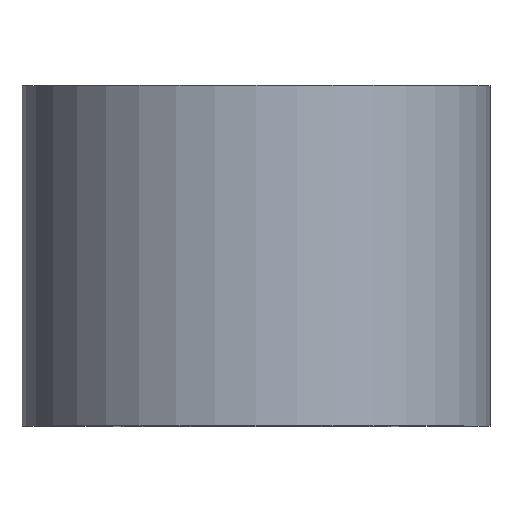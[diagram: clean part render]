
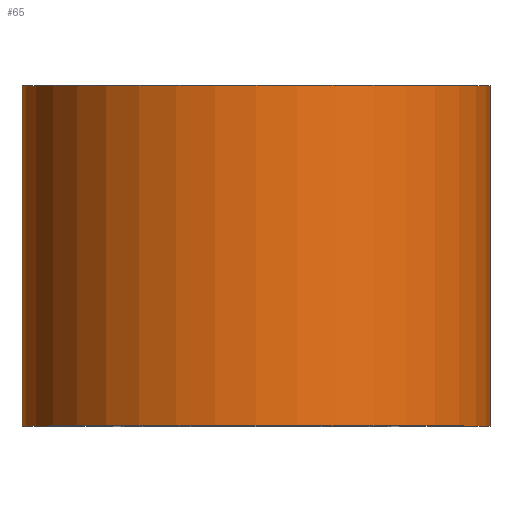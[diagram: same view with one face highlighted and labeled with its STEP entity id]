
A CAD part, top view. The second image highlights one B-rep face of the part: STEP entity #65.
In plain terms, the highlighted cylindrical face has radius 11 mm (diameter 22 mm), a partial arc.
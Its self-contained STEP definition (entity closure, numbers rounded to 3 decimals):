
#9 = CARTESIAN_POINT ( 'NONE',  ( 0., 0., 0. ) ) ;
#15 = CARTESIAN_POINT ( 'NONE',  ( 11., 16., 0. ) ) ;
#28 = VERTEX_POINT ( 'NONE', #245 ) ;
#31 = AXIS2_PLACEMENT_3D ( 'NONE', #52, #36, #102 ) ;
#32 = EDGE_LOOP ( 'NONE', ( #235, #215, #242, #93 ) ) ;
#35 = EDGE_CURVE ( 'NONE', #211, #202, #63, .T. ) ;
#36 = DIRECTION ( 'NONE',  ( 0., 1., 0. ) ) ;
#47 = LINE ( 'NONE', #94, #92 ) ;
#52 = CARTESIAN_POINT ( 'NONE',  ( 0., 16., 0. ) ) ;
#63 = LINE ( 'NONE', #73, #265 ) ;
#65 = ADVANCED_FACE ( 'NONE', ( #264 ), #278, .T. ) ;
#73 = CARTESIAN_POINT ( 'NONE',  ( 11., 0., 0. ) ) ;
#84 = VERTEX_POINT ( 'NONE', #249 ) ;
#86 = AXIS2_PLACEMENT_3D ( 'NONE', #97, #154, #246 ) ;
#90 = EDGE_CURVE ( 'NONE', #84, #28, #47, .T. ) ;
#92 = VECTOR ( 'NONE', #120, 1000. ) ;
#93 = ORIENTED_EDGE ( 'NONE', *, *, #90, .F. ) ;
#94 = CARTESIAN_POINT ( 'NONE',  ( -11., 0., 0. ) ) ;
#97 = CARTESIAN_POINT ( 'NONE',  ( 0., 0., 0. ) ) ;
#102 = DIRECTION ( 'NONE',  ( -1., 0., 0. ) ) ;
#108 = CIRCLE ( 'NONE', #31, 11. ) ;
#114 = EDGE_CURVE ( 'NONE', #84, #211, #256, .T. ) ;
#120 = DIRECTION ( 'NONE',  ( 0., 1., 0. ) ) ;
#148 = DIRECTION ( 'NONE',  ( -1., 0., 0. ) ) ;
#154 = DIRECTION ( 'NONE',  ( 0., 1., 0. ) ) ;
#159 = AXIS2_PLACEMENT_3D ( 'NONE', #9, #208, #148 ) ;
#182 = DIRECTION ( 'NONE',  ( 0., 1., 0. ) ) ;
#184 = CARTESIAN_POINT ( 'NONE',  ( 11., 0., 0. ) ) ;
#202 = VERTEX_POINT ( 'NONE', #15 ) ;
#208 = DIRECTION ( 'NONE',  ( 0., 1., 0. ) ) ;
#211 = VERTEX_POINT ( 'NONE', #184 ) ;
#215 = ORIENTED_EDGE ( 'NONE', *, *, #35, .T. ) ;
#223 = EDGE_CURVE ( 'NONE', #28, #202, #108, .T. ) ;
#235 = ORIENTED_EDGE ( 'NONE', *, *, #114, .T. ) ;
#242 = ORIENTED_EDGE ( 'NONE', *, *, #223, .F. ) ;
#245 = CARTESIAN_POINT ( 'NONE',  ( -11., 16., 0. ) ) ;
#246 = DIRECTION ( 'NONE',  ( -1., 0., 0. ) ) ;
#249 = CARTESIAN_POINT ( 'NONE',  ( -11., 0., 0. ) ) ;
#256 = CIRCLE ( 'NONE', #159, 11. ) ;
#264 = FACE_OUTER_BOUND ( 'NONE', #32, .T. ) ;
#265 = VECTOR ( 'NONE', #182, 1000. ) ;
#278 = CYLINDRICAL_SURFACE ( 'NONE', #86, 11. ) ;
